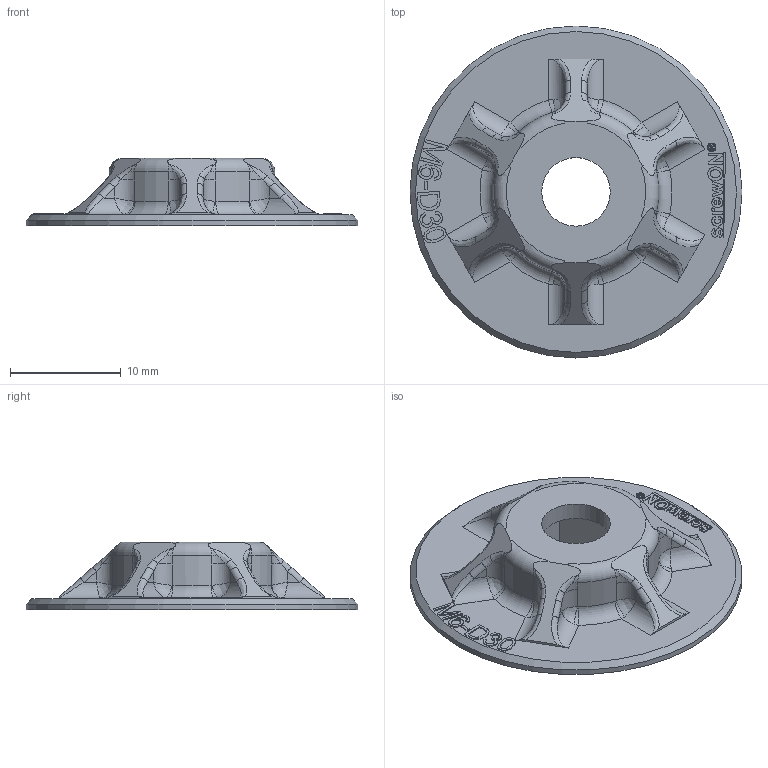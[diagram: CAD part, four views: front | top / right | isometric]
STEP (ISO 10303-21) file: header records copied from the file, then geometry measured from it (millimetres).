
FILE_DESCRIPTION(/* description */ (''),/* implementation_level */ '2;1');
FILE_NAME(/* name */ 'ScrewON Halter Rund M6 D30 v11.step',/* time_stamp */ '2023-02-15T23:43:31+01:00',/* author */ (''),/* organization */ (''),/* preprocessor_version */ 'ST-DEVELOPER v19.2',/* originating_system */ 'Autodesk Translation Framework v11.17.0.187',/* authorisation */ '');
FILE_SCHEMA (('AUTOMOTIVE_DESIGN { 1 0 10303 214 3 1 1 }'));
Length unit declared in the file: millimetre
Products named in the file (1): ScrewON Halter Rund M6 D30
Bounding box: 30 x 30 x 6.1 mm (x, y, z)
Volume: 1287.6 mm3; surface area: 1851.1 mm2
Topology: 1 solids, 1 shells, 459 faces, 1223 edges, 779 vertices
Faces by surface type: bspline 243, plane 147, cylinder 56, torus 12, cone 1
Full cylindrical faces by diameter (mm): 6.2 x1, 30 x1
Entity records: 17468 total; most frequent: CARTESIAN_POINT 7587, ORIENTED_EDGE 2422, DIRECTION 1372, EDGE_CURVE 1211, VERTEX_POINT 779, LINE 552, VECTOR 552, EDGE_LOOP 486
